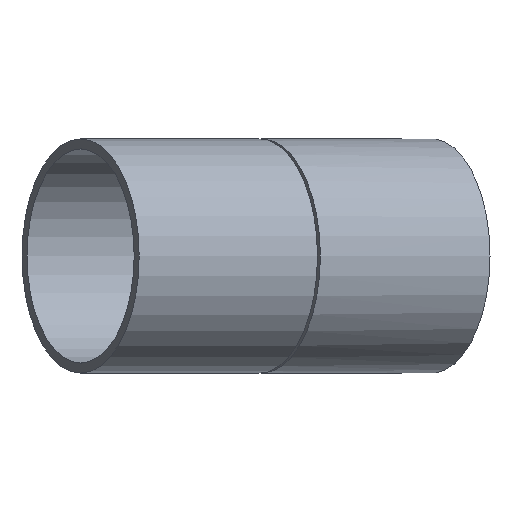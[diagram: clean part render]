
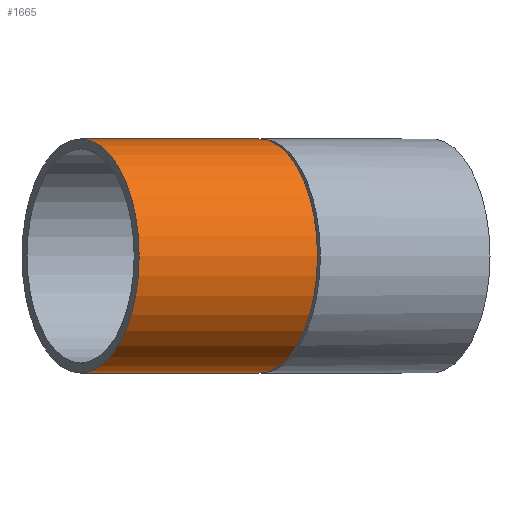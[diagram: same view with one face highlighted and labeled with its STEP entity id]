
A CAD part, left-side view. The second image highlights one B-rep face of the part: STEP entity #1665.
In plain terms, the highlighted cylindrical face has radius 35 mm (diameter 70 mm), a full revolution.
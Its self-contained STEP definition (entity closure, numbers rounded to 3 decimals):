
#183=FACE_OUTER_BOUND('',#303,.T.);
#303=EDGE_LOOP('',(#1283,#1284,#1285,#1286));
#415=LINE('',#2877,#529);
#529=VECTOR('',#2172,35.);
#651=CIRCLE('',#1833,35.);
#652=CIRCLE('',#1834,35.);
#775=VERTEX_POINT('',#2874);
#776=VERTEX_POINT('',#2876);
#958=EDGE_CURVE('',#775,#775,#651,.T.);
#959=EDGE_CURVE('',#775,#776,#415,.T.);
#960=EDGE_CURVE('',#776,#776,#652,.T.);
#1283=ORIENTED_EDGE('',*,*,#958,.F.);
#1284=ORIENTED_EDGE('',*,*,#959,.T.);
#1285=ORIENTED_EDGE('',*,*,#960,.T.);
#1286=ORIENTED_EDGE('',*,*,#959,.F.);
#1600=CYLINDRICAL_SURFACE('',#1832,35.);
#1665=ADVANCED_FACE('',(#183),#1600,.T.);
#1832=AXIS2_PLACEMENT_3D('',#2873,#2168,#2169);
#1833=AXIS2_PLACEMENT_3D('',#2875,#2170,#2171);
#1834=AXIS2_PLACEMENT_3D('',#2878,#2173,#2174);
#2168=DIRECTION('center_axis',(0.5,-0.866,0.));
#2169=DIRECTION('ref_axis',(0.866,0.5,0.));
#2170=DIRECTION('center_axis',(0.5,-0.866,0.));
#2171=DIRECTION('ref_axis',(0.866,0.5,0.));
#2172=DIRECTION('',(-0.5,0.866,0.));
#2173=DIRECTION('center_axis',(0.5,-0.866,0.));
#2174=DIRECTION('ref_axis',(0.866,0.5,0.));
#2873=CARTESIAN_POINT('Origin',(-35.441,66.016,-600.));
#2874=CARTESIAN_POINT('',(-50.377,21.886,-600.));
#2875=CARTESIAN_POINT('Origin',(-20.066,39.386,-600.));
#2876=CARTESIAN_POINT('',(-81.127,75.147,-600.));
#2877=CARTESIAN_POINT('',(-65.752,48.516,-600.));
#2878=CARTESIAN_POINT('Origin',(-50.816,92.647,-600.));
